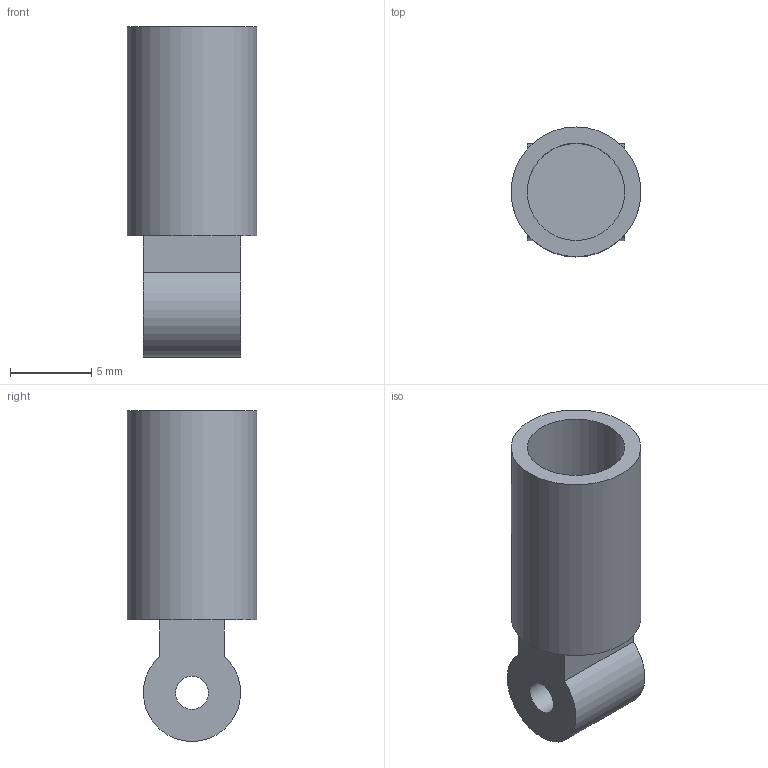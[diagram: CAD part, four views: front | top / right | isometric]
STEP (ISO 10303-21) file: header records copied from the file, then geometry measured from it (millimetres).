
FILE_DESCRIPTION(('Open CASCADE Model'),'2;1');
FILE_NAME('Open CASCADE Shape Model','2026-10-23T00:29:41',('Author'),( 'Open CASCADE'),'Open CASCADE STEP processor 7.9','Open CASCADE 7.9' ,'Unknown');
FILE_SCHEMA(('AUTOMOTIVE_DESIGN { 1 0 10303 214 1 1 1 1 }'));
Length unit declared in the file: millimetre
Products named in the file (1): Open CASCADE STEP translator 7.9 3
Bounding box: 8 x 8 x 20.4 mm (x, y, z)
Volume: 512.2 mm3; surface area: 835.8 mm2
Topology: 1 solids, 1 shells, 11 faces, 21 edges, 14 vertices
Faces by surface type: plane 7, cylinder 4
Full cylindrical faces by diameter (mm): 2.04 x1, 6 x1, 8 x1
Entity records: 569 total; most frequent: CARTESIAN_POINT 117, DIRECTION 82, ORIENTED_EDGE 42, PCURVE 42, DEFINITIONAL_REPRESENTATION 42, LINE 37, VECTOR 37, EDGE_CURVE 21
